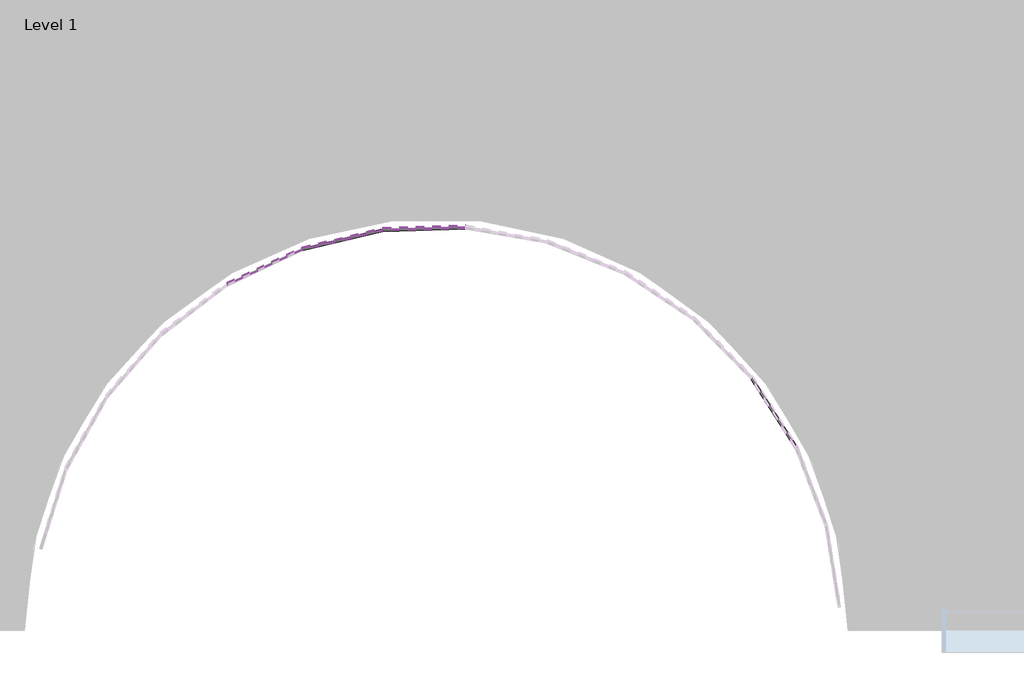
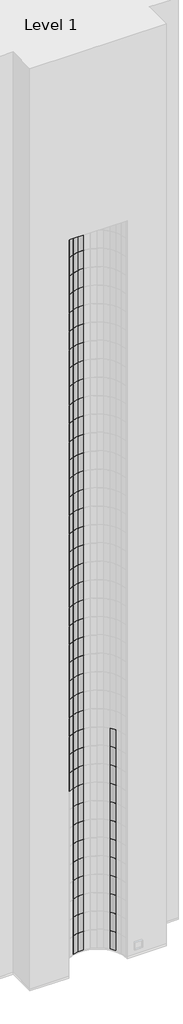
# One storey, part 8 of 20: 123 plates.
"""IFC4 building model written with IfcOpenShell, lengths in millimetres."""

from ifc_helpers import new_model, si_unit, origin, place, context, project, spatial, transform, mapped, element, save
from components import system_panel_glazed_d77d1ebf

model = new_model("IFC4")

# Units and contexts
model_context = context("Model", 3, world=origin())
ifc_project = project(units=[si_unit("LENGTHUNIT", "METRE", prefix="MILLI")], contexts=[model_context])

# Site, building, storey
site = spatial("IfcSite", under=ifc_project)
building = spatial("IfcBuilding", under=site)
storey = spatial("IfcBuildingStorey", under=building, Name="Level 1", Elevation=0.0)

# Plates
placement = place(None, origin())
system_panel_glazed_shape = system_panel_glazed_d77d1ebf(model_context)
element("IfcPlate", 1, ObjectType="System Panel : Glazed", at=placement, inside=storey, context=model_context, shape_type="MappedRepresentation", body=[
    mapped(system_panel_glazed_shape, transform((2482.9364739, -17126.4039912, 0.0), x_axis=(-0.9722724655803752, -0.2338509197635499, 0.0), y_axis=(0.2338509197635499, -0.9722724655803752, 0.0), z_axis=(0.0, 0.0, 1.0))),
])
element("IfcPlate", 2, ObjectType="System Panel : Glazed", at=placement, inside=storey, context=model_context, shape_type="MappedRepresentation", body=[
    mapped(system_panel_glazed_shape, transform((2482.9364739, -17126.4039912, 3048.0), x_axis=(-0.9722724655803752, -0.2338509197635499, 0.0), y_axis=(0.2338509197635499, -0.9722724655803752, 0.0), z_axis=(0.0, 0.0, 1.0))),
])
element("IfcPlate", 3, ObjectType="System Panel : Glazed", at=placement, inside=storey, context=model_context, shape_type="MappedRepresentation", body=[
    mapped(system_panel_glazed_shape, transform((2482.9364739, -17126.4039912, 6096.0), x_axis=(-0.9722724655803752, -0.2338509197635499, 0.0), y_axis=(0.2338509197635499, -0.9722724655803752, 0.0), z_axis=(0.0, 0.0, 1.0))),
])
element("IfcPlate", 4, ObjectType="System Panel : Glazed", at=placement, inside=storey, context=model_context, shape_type="MappedRepresentation", body=[
    mapped(system_panel_glazed_shape, transform((2482.9364739, -17126.4039912, 9144.0), x_axis=(-0.9722724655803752, -0.2338509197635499, 0.0), y_axis=(0.2338509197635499, -0.9722724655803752, 0.0), z_axis=(0.0, 0.0, 1.0))),
])
element("IfcPlate", 5, ObjectType="System Panel : Glazed", at=placement, inside=storey, context=model_context, shape_type="MappedRepresentation", body=[
    mapped(system_panel_glazed_shape, transform((2482.9364739, -17126.4039912, 12192.0), x_axis=(-0.9722724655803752, -0.2338509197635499, 0.0), y_axis=(0.2338509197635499, -0.9722724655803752, 0.0), z_axis=(0.0, 0.0, 1.0))),
])
element("IfcPlate", 6, ObjectType="System Panel : Glazed", at=placement, inside=storey, context=model_context, shape_type="MappedRepresentation", body=[
    mapped(system_panel_glazed_shape, transform((2482.9364739, -17126.4039912, 15240.0), x_axis=(-0.9722724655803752, -0.2338509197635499, 0.0), y_axis=(0.2338509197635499, -0.9722724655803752, 0.0), z_axis=(0.0, 0.0, 1.0))),
])
element("IfcPlate", 7, ObjectType="System Panel : Glazed", at=placement, inside=storey, context=model_context, shape_type="MappedRepresentation", body=[
    mapped(system_panel_glazed_shape, transform((2482.9364739, -17126.4039912, 18288.0), x_axis=(-0.9722724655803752, -0.23385091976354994, 0.0), y_axis=(0.23385091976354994, -0.9722724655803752, 0.0), z_axis=(0.0, 0.0, 1.0))),
])
element("IfcPlate", 8, ObjectType="System Panel : Glazed", at=placement, inside=storey, context=model_context, shape_type="MappedRepresentation", body=[
    mapped(system_panel_glazed_shape, transform((2482.9364739, -17126.4039912, 21336.0), x_axis=(-0.9722724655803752, -0.2338509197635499, 0.0), y_axis=(0.2338509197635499, -0.9722724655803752, 0.0), z_axis=(0.0, 0.0, 1.0))),
])
element("IfcPlate", 9, ObjectType="System Panel : Glazed", at=placement, inside=storey, context=model_context, shape_type="MappedRepresentation", body=[
    mapped(system_panel_glazed_shape, transform((2482.9364739, -17126.4039912, 24384.0), x_axis=(-0.9722724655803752, -0.2338509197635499, 0.0), y_axis=(0.2338509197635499, -0.9722724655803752, 0.0), z_axis=(0.0, 0.0, 1.0))),
])
element("IfcPlate", 10, ObjectType="System Panel : Glazed", at=placement, inside=storey, context=model_context, shape_type="MappedRepresentation", body=[
    mapped(system_panel_glazed_shape, transform((2482.9364739, -17126.4039912, 27432.0), x_axis=(-0.9722724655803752, -0.2338509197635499, 0.0), y_axis=(0.2338509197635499, -0.9722724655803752, 0.0), z_axis=(0.0, 0.0, 1.0))),
])
element("IfcPlate", 11, ObjectType="System Panel : Glazed", at=placement, inside=storey, context=model_context, shape_type="MappedRepresentation", body=[
    mapped(system_panel_glazed_shape, transform((1625.145029, -17428.8737158, 27432.0), x_axis=(-0.9039117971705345, -0.4277189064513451, 0.0), y_axis=(0.4277189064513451, -0.9039117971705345, 0.0), z_axis=(0.0, 0.0, 1.0))),
])
element("IfcPlate", 12, ObjectType="System Panel : Glazed", at=placement, inside=storey, context=model_context, shape_type="MappedRepresentation", body=[
    mapped(system_panel_glazed_shape, transform((2482.9364739, -17126.4039912, 30480.0), x_axis=(-0.9722724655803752, -0.2338509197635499, 0.0), y_axis=(0.2338509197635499, -0.9722724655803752, 0.0), z_axis=(0.0, 0.0, 1.0))),
])
element("IfcPlate", 13, ObjectType="System Panel : Glazed", at=placement, inside=storey, context=model_context, shape_type="MappedRepresentation", body=[
    mapped(system_panel_glazed_shape, transform((1625.145029, -17428.8737158, 30480.0), x_axis=(-0.9039117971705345, -0.4277189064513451, 0.0), y_axis=(0.4277189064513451, -0.9039117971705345, 0.0), z_axis=(0.0, 0.0, 1.0))),
])
element("IfcPlate", 14, ObjectType="System Panel : Glazed", at=placement, inside=storey, context=model_context, shape_type="MappedRepresentation", body=[
    mapped(system_panel_glazed_shape, transform((2482.9364739, -17126.4039912, 33528.0), x_axis=(-0.9722724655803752, -0.2338509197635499, 0.0), y_axis=(0.2338509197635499, -0.9722724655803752, 0.0), z_axis=(0.0, 0.0, 1.0))),
])
element("IfcPlate", 15, ObjectType="System Panel : Glazed", at=placement, inside=storey, context=model_context, shape_type="MappedRepresentation", body=[
    mapped(system_panel_glazed_shape, transform((1625.145029, -17428.8737158, 33528.0), x_axis=(-0.9039117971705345, -0.4277189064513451, 0.0), y_axis=(0.4277189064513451, -0.9039117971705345, 0.0), z_axis=(0.0, 0.0, 1.0))),
])
element("IfcPlate", 16, ObjectType="System Panel : Glazed", at=placement, inside=storey, context=model_context, shape_type="MappedRepresentation", body=[
    mapped(system_panel_glazed_shape, transform((2482.9364739, -17126.4039912, 36576.0), x_axis=(-0.9722724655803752, -0.2338509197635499, 0.0), y_axis=(0.2338509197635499, -0.9722724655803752, 0.0), z_axis=(0.0, 0.0, 1.0))),
])
element("IfcPlate", 17, ObjectType="System Panel : Glazed", at=placement, inside=storey, context=model_context, shape_type="MappedRepresentation", body=[
    mapped(system_panel_glazed_shape, transform((1625.145029, -17428.8737158, 36576.0), x_axis=(-0.9039117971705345, -0.4277189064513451, 0.0), y_axis=(0.4277189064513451, -0.9039117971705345, 0.0), z_axis=(0.0, 0.0, 1.0))),
])
element("IfcPlate", 18, ObjectType="System Panel : Glazed", at=placement, inside=storey, context=model_context, shape_type="MappedRepresentation", body=[
    mapped(system_panel_glazed_shape, transform((2482.9364739, -17126.4039912, 39624.0), x_axis=(-0.9722724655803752, -0.2338509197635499, 0.0), y_axis=(0.2338509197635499, -0.9722724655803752, 0.0), z_axis=(0.0, 0.0, 1.0))),
])
element("IfcPlate", 19, ObjectType="System Panel : Glazed", at=placement, inside=storey, context=model_context, shape_type="MappedRepresentation", body=[
    mapped(system_panel_glazed_shape, transform((1625.145029, -17428.8737158, 39624.0), x_axis=(-0.9039117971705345, -0.4277189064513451, 0.0), y_axis=(0.4277189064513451, -0.9039117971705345, 0.0), z_axis=(0.0, 0.0, 1.0))),
])
element("IfcPlate", 20, ObjectType="System Panel : Glazed", at=placement, inside=storey, context=model_context, shape_type="MappedRepresentation", body=[
    mapped(system_panel_glazed_shape, transform((2482.9364739, -17126.4039912, 42672.0), x_axis=(-0.9722724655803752, -0.2338509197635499, 0.0), y_axis=(0.2338509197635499, -0.9722724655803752, 0.0), z_axis=(0.0, 0.0, 1.0))),
])
element("IfcPlate", 21, ObjectType="System Panel : Glazed", at=placement, inside=storey, context=model_context, shape_type="MappedRepresentation", body=[
    mapped(system_panel_glazed_shape, transform((1625.145029, -17428.8737158, 42672.0), x_axis=(-0.9039117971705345, -0.4277189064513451, 0.0), y_axis=(0.4277189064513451, -0.9039117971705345, 0.0), z_axis=(0.0, 0.0, 1.0))),
])
element("IfcPlate", 22, ObjectType="System Panel : Glazed", at=placement, inside=storey, context=model_context, shape_type="MappedRepresentation", body=[
    mapped(system_panel_glazed_shape, transform((2482.9364739, -17126.4039912, 45720.0), x_axis=(-0.9722724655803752, -0.2338509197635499, 0.0), y_axis=(0.2338509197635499, -0.9722724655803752, 0.0), z_axis=(0.0, 0.0, 1.0))),
])
element("IfcPlate", 23, ObjectType="System Panel : Glazed", at=placement, inside=storey, context=model_context, shape_type="MappedRepresentation", body=[
    mapped(system_panel_glazed_shape, transform((1625.145029, -17428.8737158, 45720.0), x_axis=(-0.9039117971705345, -0.4277189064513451, 0.0), y_axis=(0.4277189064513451, -0.9039117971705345, 0.0), z_axis=(0.0, 0.0, 1.0))),
])
element("IfcPlate", 24, ObjectType="System Panel : Glazed", at=placement, inside=storey, context=model_context, shape_type="MappedRepresentation", body=[
    mapped(system_panel_glazed_shape, transform((2482.9364739, -17126.4039912, 48768.0), x_axis=(-0.9722724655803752, -0.2338509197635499, 0.0), y_axis=(0.2338509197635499, -0.9722724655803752, 0.0), z_axis=(0.0, 0.0, 1.0))),
])
element("IfcPlate", 25, ObjectType="System Panel : Glazed", at=placement, inside=storey, context=model_context, shape_type="MappedRepresentation", body=[
    mapped(system_panel_glazed_shape, transform((1625.145029, -17428.8737158, 48768.0), x_axis=(-0.9039117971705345, -0.4277189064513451, 0.0), y_axis=(0.4277189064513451, -0.9039117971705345, 0.0), z_axis=(0.0, 0.0, 1.0))),
])
element("IfcPlate", 26, ObjectType="System Panel : Glazed", at=placement, inside=storey, context=model_context, shape_type="MappedRepresentation", body=[
    mapped(system_panel_glazed_shape, transform((2482.9364739, -17126.4039912, 51816.0), x_axis=(-0.9722724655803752, -0.2338509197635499, 0.0), y_axis=(0.2338509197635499, -0.9722724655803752, 0.0), z_axis=(0.0, 0.0, 1.0))),
])
element("IfcPlate", 27, ObjectType="System Panel : Glazed", at=placement, inside=storey, context=model_context, shape_type="MappedRepresentation", body=[
    mapped(system_panel_glazed_shape, transform((1625.145029, -17428.8737158, 51816.0), x_axis=(-0.9039117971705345, -0.4277189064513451, 0.0), y_axis=(0.4277189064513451, -0.9039117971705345, 0.0), z_axis=(0.0, 0.0, 1.0))),
])
element("IfcPlate", 28, ObjectType="System Panel : Glazed", at=placement, inside=storey, context=model_context, shape_type="MappedRepresentation", body=[
    mapped(system_panel_glazed_shape, transform((2482.9364739, -17126.4039912, 54864.0), x_axis=(-0.9722724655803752, -0.2338509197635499, 0.0), y_axis=(0.2338509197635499, -0.9722724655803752, 0.0), z_axis=(0.0, 0.0, 1.0))),
])
element("IfcPlate", 29, ObjectType="System Panel : Glazed", at=placement, inside=storey, context=model_context, shape_type="MappedRepresentation", body=[
    mapped(system_panel_glazed_shape, transform((1625.145029, -17428.8737158, 54864.0), x_axis=(-0.9039117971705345, -0.4277189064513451, 0.0), y_axis=(0.4277189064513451, -0.9039117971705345, 0.0), z_axis=(0.0, 0.0, 1.0))),
])
element("IfcPlate", 30, ObjectType="System Panel : Glazed", at=placement, inside=storey, context=model_context, shape_type="MappedRepresentation", body=[
    mapped(system_panel_glazed_shape, transform((2482.9364739, -17126.4039912, 57912.0), x_axis=(-0.9722724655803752, -0.2338509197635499, 0.0), y_axis=(0.2338509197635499, -0.9722724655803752, 0.0), z_axis=(0.0, 0.0, 1.0))),
])
element("IfcPlate", 31, ObjectType="System Panel : Glazed", at=placement, inside=storey, context=model_context, shape_type="MappedRepresentation", body=[
    mapped(system_panel_glazed_shape, transform((1625.145029, -17428.8737158, 57912.0), x_axis=(-0.9039117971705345, -0.4277189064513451, 0.0), y_axis=(0.4277189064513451, -0.9039117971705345, 0.0), z_axis=(0.0, 0.0, 1.0))),
])
element("IfcPlate", 32, ObjectType="System Panel : Glazed", at=placement, inside=storey, context=model_context, shape_type="MappedRepresentation", body=[
    mapped(system_panel_glazed_shape, transform((2482.9364739, -17126.4039912, 60960.0), x_axis=(-0.9722724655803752, -0.2338509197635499, 0.0), y_axis=(0.2338509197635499, -0.9722724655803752, 0.0), z_axis=(0.0, 0.0, 1.0))),
])
element("IfcPlate", 33, ObjectType="System Panel : Glazed", at=placement, inside=storey, context=model_context, shape_type="MappedRepresentation", body=[
    mapped(system_panel_glazed_shape, transform((1625.145029, -17428.8737158, 60960.0), x_axis=(-0.9039117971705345, -0.4277189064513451, 0.0), y_axis=(0.4277189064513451, -0.9039117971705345, 0.0), z_axis=(0.0, 0.0, 1.0))),
])
element("IfcPlate", 34, ObjectType="System Panel : Glazed", at=placement, inside=storey, context=model_context, shape_type="MappedRepresentation", body=[
    mapped(system_panel_glazed_shape, transform((2482.9364739, -17126.4039912, 64008.0), x_axis=(-0.9722724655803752, -0.2338509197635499, 0.0), y_axis=(0.2338509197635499, -0.9722724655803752, 0.0), z_axis=(0.0, 0.0, 1.0))),
])
element("IfcPlate", 35, ObjectType="System Panel : Glazed", at=placement, inside=storey, context=model_context, shape_type="MappedRepresentation", body=[
    mapped(system_panel_glazed_shape, transform((1625.145029, -17428.8737158, 64008.0), x_axis=(-0.9039117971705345, -0.4277189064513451, 0.0), y_axis=(0.4277189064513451, -0.9039117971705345, 0.0), z_axis=(0.0, 0.0, 1.0))),
])
element("IfcPlate", 36, ObjectType="System Panel : Glazed", at=placement, inside=storey, context=model_context, shape_type="MappedRepresentation", body=[
    mapped(system_panel_glazed_shape, transform((2482.9364739, -17126.4039912, 67056.0), x_axis=(-0.9722724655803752, -0.2338509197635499, 0.0), y_axis=(0.2338509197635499, -0.9722724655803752, 0.0), z_axis=(0.0, 0.0, 1.0))),
])
element("IfcPlate", 37, ObjectType="System Panel : Glazed", at=placement, inside=storey, context=model_context, shape_type="MappedRepresentation", body=[
    mapped(system_panel_glazed_shape, transform((1625.145029, -17428.8737158, 67056.0), x_axis=(-0.9039117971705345, -0.4277189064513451, 0.0), y_axis=(0.4277189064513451, -0.9039117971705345, 0.0), z_axis=(0.0, 0.0, 1.0))),
])
element("IfcPlate", 38, ObjectType="System Panel : Glazed", at=placement, inside=storey, context=model_context, shape_type="MappedRepresentation", body=[
    mapped(system_panel_glazed_shape, transform((2482.9364739, -17126.4039912, 70104.0), x_axis=(-0.9722724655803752, -0.2338509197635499, 0.0), y_axis=(0.2338509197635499, -0.9722724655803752, 0.0), z_axis=(0.0, 0.0, 1.0))),
])
element("IfcPlate", 39, ObjectType="System Panel : Glazed", at=placement, inside=storey, context=model_context, shape_type="MappedRepresentation", body=[
    mapped(system_panel_glazed_shape, transform((1625.145029, -17428.8737158, 70104.0), x_axis=(-0.9039117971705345, -0.4277189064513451, 0.0), y_axis=(0.4277189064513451, -0.9039117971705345, 0.0), z_axis=(0.0, 0.0, 1.0))),
])
element("IfcPlate", 40, ObjectType="System Panel : Glazed", at=placement, inside=storey, context=model_context, shape_type="MappedRepresentation", body=[
    mapped(system_panel_glazed_shape, transform((2482.9364739, -17126.4039912, 73152.0), x_axis=(-0.9722724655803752, -0.2338509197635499, 0.0), y_axis=(0.2338509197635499, -0.9722724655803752, 0.0), z_axis=(0.0, 0.0, 1.0))),
])
element("IfcPlate", 41, ObjectType="System Panel : Glazed", at=placement, inside=storey, context=model_context, shape_type="MappedRepresentation", body=[
    mapped(system_panel_glazed_shape, transform((1625.145029, -17428.8737158, 73152.0), x_axis=(-0.9039117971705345, -0.4277189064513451, 0.0), y_axis=(0.4277189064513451, -0.9039117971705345, 0.0), z_axis=(0.0, 0.0, 1.0))),
])
element("IfcPlate", 42, ObjectType="System Panel : Glazed", at=placement, inside=storey, context=model_context, shape_type="MappedRepresentation", body=[
    mapped(system_panel_glazed_shape, transform((2482.9364739, -17126.4039912, 76200.0), x_axis=(-0.9722724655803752, -0.2338509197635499, 0.0), y_axis=(0.2338509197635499, -0.9722724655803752, 0.0), z_axis=(0.0, 0.0, 1.0))),
])
element("IfcPlate", 43, ObjectType="System Panel : Glazed", at=placement, inside=storey, context=model_context, shape_type="MappedRepresentation", body=[
    mapped(system_panel_glazed_shape, transform((1625.145029, -17428.8737158, 76200.0), x_axis=(-0.9039117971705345, -0.4277189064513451, 0.0), y_axis=(0.4277189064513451, -0.9039117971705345, 0.0), z_axis=(0.0, 0.0, 1.0))),
])
element("IfcPlate", 44, ObjectType="System Panel : Glazed", at=placement, inside=storey, context=model_context, shape_type="MappedRepresentation", body=[
    mapped(system_panel_glazed_shape, transform((2482.9364739, -17126.4039912, 79248.0), x_axis=(-0.9722724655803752, -0.2338509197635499, 0.0), y_axis=(0.2338509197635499, -0.9722724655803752, 0.0), z_axis=(0.0, 0.0, 1.0))),
])
element("IfcPlate", 45, ObjectType="System Panel : Glazed", at=placement, inside=storey, context=model_context, shape_type="MappedRepresentation", body=[
    mapped(system_panel_glazed_shape, transform((1625.145029, -17428.8737158, 79248.0), x_axis=(-0.9039117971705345, -0.4277189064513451, 0.0), y_axis=(0.4277189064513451, -0.9039117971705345, 0.0), z_axis=(0.0, 0.0, 1.0))),
])
element("IfcPlate", 46, ObjectType="System Panel : Glazed", at=placement, inside=storey, context=model_context, shape_type="MappedRepresentation", body=[
    mapped(system_panel_glazed_shape, transform((2482.9364739, -17126.4039912, 82296.0), x_axis=(-0.9722724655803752, -0.2338509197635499, 0.0), y_axis=(0.2338509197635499, -0.9722724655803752, 0.0), z_axis=(0.0, 0.0, 1.0))),
])
element("IfcPlate", 47, ObjectType="System Panel : Glazed", at=placement, inside=storey, context=model_context, shape_type="MappedRepresentation", body=[
    mapped(system_panel_glazed_shape, transform((1625.145029, -17428.8737158, 82296.0), x_axis=(-0.9039117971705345, -0.4277189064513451, 0.0), y_axis=(0.4277189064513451, -0.9039117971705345, 0.0), z_axis=(0.0, 0.0, 1.0))),
])
element("IfcPlate", 48, ObjectType="System Panel : Glazed", at=placement, inside=storey, context=model_context, shape_type="MappedRepresentation", body=[
    mapped(system_panel_glazed_shape, transform((2482.9364739, -17126.4039912, 85344.0), x_axis=(-0.9722724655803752, -0.2338509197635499, 0.0), y_axis=(0.2338509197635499, -0.9722724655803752, 0.0), z_axis=(0.0, 0.0, 1.0))),
])
element("IfcPlate", 49, ObjectType="System Panel : Glazed", at=placement, inside=storey, context=model_context, shape_type="MappedRepresentation", body=[
    mapped(system_panel_glazed_shape, transform((1625.145029, -17428.8737158, 85344.0), x_axis=(-0.9039117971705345, -0.4277189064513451, 0.0), y_axis=(0.4277189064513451, -0.9039117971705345, 0.0), z_axis=(0.0, 0.0, 1.0))),
])
element("IfcPlate", 50, ObjectType="System Panel : Glazed", at=placement, inside=storey, context=model_context, shape_type="MappedRepresentation", body=[
    mapped(system_panel_glazed_shape, transform((2482.9364739, -17126.4039912, 88392.0), x_axis=(-0.9722724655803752, -0.2338509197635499, 0.0), y_axis=(0.2338509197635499, -0.9722724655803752, 0.0), z_axis=(0.0, 0.0, 1.0))),
])
element("IfcPlate", 51, ObjectType="System Panel : Glazed", at=placement, inside=storey, context=model_context, shape_type="MappedRepresentation", body=[
    mapped(system_panel_glazed_shape, transform((1625.145029, -17428.8737158, 88392.0), x_axis=(-0.9039117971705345, -0.4277189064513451, 0.0), y_axis=(0.4277189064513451, -0.9039117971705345, 0.0), z_axis=(0.0, 0.0, 1.0))),
])
element("IfcPlate", 52, ObjectType="System Panel : Glazed", at=placement, inside=storey, context=model_context, shape_type="MappedRepresentation", body=[
    mapped(system_panel_glazed_shape, transform((2482.9364739, -17126.4039912, 91440.0), x_axis=(-0.9722724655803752, -0.2338509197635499, 0.0), y_axis=(0.2338509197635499, -0.9722724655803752, 0.0), z_axis=(0.0, 0.0, 1.0))),
])
element("IfcPlate", 53, ObjectType="System Panel : Glazed", at=placement, inside=storey, context=model_context, shape_type="MappedRepresentation", body=[
    mapped(system_panel_glazed_shape, transform((1625.145029, -17428.8737158, 91440.0), x_axis=(-0.9039117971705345, -0.4277189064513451, 0.0), y_axis=(0.4277189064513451, -0.9039117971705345, 0.0), z_axis=(0.0, 0.0, 1.0))),
])
element("IfcPlate", 54, ObjectType="System Panel : Glazed", at=placement, inside=storey, context=model_context, shape_type="MappedRepresentation", body=[
    mapped(system_panel_glazed_shape, transform((2482.9364739, -17126.4039912, 94488.0), x_axis=(-0.9722724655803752, -0.2338509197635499, 0.0), y_axis=(0.2338509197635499, -0.9722724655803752, 0.0), z_axis=(0.0, 0.0, 1.0))),
])
element("IfcPlate", 55, ObjectType="System Panel : Glazed", at=placement, inside=storey, context=model_context, shape_type="MappedRepresentation", body=[
    mapped(system_panel_glazed_shape, transform((1625.145029, -17428.8737158, 94488.0), x_axis=(-0.9039117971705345, -0.4277189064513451, 0.0), y_axis=(0.4277189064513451, -0.9039117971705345, 0.0), z_axis=(0.0, 0.0, 1.0))),
])
element("IfcPlate", 56, ObjectType="System Panel : Glazed", at=placement, inside=storey, context=model_context, shape_type="MappedRepresentation", body=[
    mapped(system_panel_glazed_shape, transform((2482.9364739, -17126.4039912, 97536.0), x_axis=(-0.9722724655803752, -0.2338509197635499, 0.0), y_axis=(0.2338509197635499, -0.9722724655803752, 0.0), z_axis=(0.0, 0.0, 1.0))),
])
element("IfcPlate", 57, ObjectType="System Panel : Glazed", at=placement, inside=storey, context=model_context, shape_type="MappedRepresentation", body=[
    mapped(system_panel_glazed_shape, transform((1625.145029, -17428.8737158, 97536.0), x_axis=(-0.9039117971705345, -0.4277189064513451, 0.0), y_axis=(0.4277189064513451, -0.9039117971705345, 0.0), z_axis=(0.0, 0.0, 1.0))),
])
element("IfcPlate", 58, ObjectType="System Panel : Glazed", at=placement, inside=storey, context=model_context, shape_type="MappedRepresentation", body=[
    mapped(system_panel_glazed_shape, transform((2482.9364739, -17126.4039912, 100584.0), x_axis=(-0.9722724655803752, -0.2338509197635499, 0.0), y_axis=(0.2338509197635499, -0.9722724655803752, 0.0), z_axis=(0.0, 0.0, 1.0))),
])
element("IfcPlate", 59, ObjectType="System Panel : Glazed", at=placement, inside=storey, context=model_context, shape_type="MappedRepresentation", body=[
    mapped(system_panel_glazed_shape, transform((1625.145029, -17428.8737158, 100584.0), x_axis=(-0.9039117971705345, -0.4277189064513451, 0.0), y_axis=(0.4277189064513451, -0.9039117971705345, 0.0), z_axis=(0.0, 0.0, 1.0))),
])
element("IfcPlate", 60, ObjectType="System Panel : Glazed", at=placement, inside=storey, context=model_context, shape_type="MappedRepresentation", body=[
    mapped(system_panel_glazed_shape, transform((3384.4522724, -17005.7252347, 0.0), x_axis=(-0.9995468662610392, -0.030100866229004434, 0.0), y_axis=(0.030100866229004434, -0.9995468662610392, 0.0), z_axis=(0.0, 0.0, 1.0))),
])
element("IfcPlate", 61, ObjectType="System Panel : Glazed", at=placement, inside=storey, context=model_context, shape_type="MappedRepresentation", body=[
    mapped(system_panel_glazed_shape, transform((3384.4522724, -17005.7252347, 3048.0), x_axis=(-0.9995468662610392, -0.030100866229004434, 0.0), y_axis=(0.030100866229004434, -0.9995468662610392, 0.0), z_axis=(0.0, 0.0, 1.0))),
])
element("IfcPlate", 62, ObjectType="System Panel : Glazed", at=placement, inside=storey, context=model_context, shape_type="MappedRepresentation", body=[
    mapped(system_panel_glazed_shape, transform((3384.4522724, -17005.7252347, 6096.0), x_axis=(-0.9995468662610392, -0.030100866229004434, 0.0), y_axis=(0.030100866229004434, -0.9995468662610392, 0.0), z_axis=(0.0, 0.0, 1.0))),
])
element("IfcPlate", 63, ObjectType="System Panel : Glazed", at=placement, inside=storey, context=model_context, shape_type="MappedRepresentation", body=[
    mapped(system_panel_glazed_shape, transform((3384.4522724, -17005.7252347, 9144.0), x_axis=(-0.9995468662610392, -0.030100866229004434, 0.0), y_axis=(0.030100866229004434, -0.9995468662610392, 0.0), z_axis=(0.0, 0.0, 1.0))),
])
element("IfcPlate", 64, ObjectType="System Panel : Glazed", at=placement, inside=storey, context=model_context, shape_type="MappedRepresentation", body=[
    mapped(system_panel_glazed_shape, transform((3384.4522724, -17005.7252347, 12192.0), x_axis=(-0.9995468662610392, -0.030100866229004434, 0.0), y_axis=(0.030100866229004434, -0.9995468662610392, 0.0), z_axis=(0.0, 0.0, 1.0))),
])
element("IfcPlate", 65, ObjectType="System Panel : Glazed", at=placement, inside=storey, context=model_context, shape_type="MappedRepresentation", body=[
    mapped(system_panel_glazed_shape, transform((3384.4522724, -17005.7252347, 15240.0), x_axis=(-0.9995468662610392, -0.030100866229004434, 0.0), y_axis=(0.030100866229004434, -0.9995468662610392, 0.0), z_axis=(0.0, 0.0, 1.0))),
])
element("IfcPlate", 66, ObjectType="System Panel : Glazed", at=placement, inside=storey, context=model_context, shape_type="MappedRepresentation", body=[
    mapped(system_panel_glazed_shape, transform((3384.4522724, -17005.7252347, 18288.0), x_axis=(-0.9995468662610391, -0.030100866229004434, 0.0), y_axis=(0.030100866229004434, -0.9995468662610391, 0.0), z_axis=(0.0, 0.0, 1.0))),
])
element("IfcPlate", 67, ObjectType="System Panel : Glazed", at=placement, inside=storey, context=model_context, shape_type="MappedRepresentation", body=[
    mapped(system_panel_glazed_shape, transform((3384.4522724, -17005.7252347, 21336.0), x_axis=(-0.9995468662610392, -0.030100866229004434, 0.0), y_axis=(0.030100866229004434, -0.9995468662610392, 0.0), z_axis=(0.0, 0.0, 1.0))),
])
element("IfcPlate", 68, ObjectType="System Panel : Glazed", at=placement, inside=storey, context=model_context, shape_type="MappedRepresentation", body=[
    mapped(system_panel_glazed_shape, transform((3384.4522724, -17005.7252347, 24384.0), x_axis=(-0.9995468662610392, -0.030100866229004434, 0.0), y_axis=(0.030100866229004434, -0.9995468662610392, 0.0), z_axis=(0.0, 0.0, 1.0))),
])
element("IfcPlate", 69, ObjectType="System Panel : Glazed", at=placement, inside=storey, context=model_context, shape_type="MappedRepresentation", body=[
    mapped(system_panel_glazed_shape, transform((3384.4522724, -17005.7252347, 27432.0), x_axis=(-0.9995468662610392, -0.030100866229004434, 0.0), y_axis=(0.030100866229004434, -0.9995468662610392, 0.0), z_axis=(0.0, 0.0, 1.0))),
])
element("IfcPlate", 70, ObjectType="System Panel : Glazed", at=placement, inside=storey, context=model_context, shape_type="MappedRepresentation", body=[
    mapped(system_panel_glazed_shape, transform((3384.4522724, -17005.7252347, 30480.0), x_axis=(-0.9995468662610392, -0.030100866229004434, 0.0), y_axis=(0.030100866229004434, -0.9995468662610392, 0.0), z_axis=(0.0, 0.0, 1.0))),
])
element("IfcPlate", 71, ObjectType="System Panel : Glazed", at=placement, inside=storey, context=model_context, shape_type="MappedRepresentation", body=[
    mapped(system_panel_glazed_shape, transform((3384.4522724, -17005.7252347, 33528.0), x_axis=(-0.9995468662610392, -0.030100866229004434, 0.0), y_axis=(0.030100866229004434, -0.9995468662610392, 0.0), z_axis=(0.0, 0.0, 1.0))),
])
element("IfcPlate", 72, ObjectType="System Panel : Glazed", at=placement, inside=storey, context=model_context, shape_type="MappedRepresentation", body=[
    mapped(system_panel_glazed_shape, transform((3384.4522724, -17005.7252347, 36576.0), x_axis=(-0.9995468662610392, -0.030100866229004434, 0.0), y_axis=(0.030100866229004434, -0.9995468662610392, 0.0), z_axis=(0.0, 0.0, 1.0))),
])
element("IfcPlate", 73, ObjectType="System Panel : Glazed", at=placement, inside=storey, context=model_context, shape_type="MappedRepresentation", body=[
    mapped(system_panel_glazed_shape, transform((3384.4522724, -17005.7252347, 39624.0), x_axis=(-0.9995468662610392, -0.030100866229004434, 0.0), y_axis=(0.030100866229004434, -0.9995468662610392, 0.0), z_axis=(0.0, 0.0, 1.0))),
])
element("IfcPlate", 74, ObjectType="System Panel : Glazed", at=placement, inside=storey, context=model_context, shape_type="MappedRepresentation", body=[
    mapped(system_panel_glazed_shape, transform((3384.4522724, -17005.7252347, 42672.0), x_axis=(-0.9995468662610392, -0.030100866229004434, 0.0), y_axis=(0.030100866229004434, -0.9995468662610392, 0.0), z_axis=(0.0, 0.0, 1.0))),
])
element("IfcPlate", 75, ObjectType="System Panel : Glazed", at=placement, inside=storey, context=model_context, shape_type="MappedRepresentation", body=[
    mapped(system_panel_glazed_shape, transform((3384.4522724, -17005.7252347, 45720.0), x_axis=(-0.9995468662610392, -0.030100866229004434, 0.0), y_axis=(0.030100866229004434, -0.9995468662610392, 0.0), z_axis=(0.0, 0.0, 1.0))),
])
element("IfcPlate", 76, ObjectType="System Panel : Glazed", at=placement, inside=storey, context=model_context, shape_type="MappedRepresentation", body=[
    mapped(system_panel_glazed_shape, transform((3384.4522724, -17005.7252347, 48768.0), x_axis=(-0.9995468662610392, -0.030100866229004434, 0.0), y_axis=(0.030100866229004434, -0.9995468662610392, 0.0), z_axis=(0.0, 0.0, 1.0))),
])
element("IfcPlate", 77, ObjectType="System Panel : Glazed", at=placement, inside=storey, context=model_context, shape_type="MappedRepresentation", body=[
    mapped(system_panel_glazed_shape, transform((3384.4522724, -17005.7252347, 51816.0), x_axis=(-0.9995468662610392, -0.030100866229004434, 0.0), y_axis=(0.030100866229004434, -0.9995468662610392, 0.0), z_axis=(0.0, 0.0, 1.0))),
])
element("IfcPlate", 78, ObjectType="System Panel : Glazed", at=placement, inside=storey, context=model_context, shape_type="MappedRepresentation", body=[
    mapped(system_panel_glazed_shape, transform((3384.4522724, -17005.7252347, 54864.0), x_axis=(-0.9995468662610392, -0.030100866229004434, 0.0), y_axis=(0.030100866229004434, -0.9995468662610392, 0.0), z_axis=(0.0, 0.0, 1.0))),
])
element("IfcPlate", 79, ObjectType="System Panel : Glazed", at=placement, inside=storey, context=model_context, shape_type="MappedRepresentation", body=[
    mapped(system_panel_glazed_shape, transform((3384.4522724, -17005.7252347, 57912.0), x_axis=(-0.9995468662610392, -0.030100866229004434, 0.0), y_axis=(0.030100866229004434, -0.9995468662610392, 0.0), z_axis=(0.0, 0.0, 1.0))),
])
element("IfcPlate", 80, ObjectType="System Panel : Glazed", at=placement, inside=storey, context=model_context, shape_type="MappedRepresentation", body=[
    mapped(system_panel_glazed_shape, transform((3384.4522724, -17005.7252347, 60960.0), x_axis=(-0.9995468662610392, -0.030100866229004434, 0.0), y_axis=(0.030100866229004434, -0.9995468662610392, 0.0), z_axis=(0.0, 0.0, 1.0))),
])
element("IfcPlate", 81, ObjectType="System Panel : Glazed", at=placement, inside=storey, context=model_context, shape_type="MappedRepresentation", body=[
    mapped(system_panel_glazed_shape, transform((3384.4522724, -17005.7252347, 64008.0), x_axis=(-0.9995468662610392, -0.030100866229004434, 0.0), y_axis=(0.030100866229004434, -0.9995468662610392, 0.0), z_axis=(0.0, 0.0, 1.0))),
])
element("IfcPlate", 82, ObjectType="System Panel : Glazed", at=placement, inside=storey, context=model_context, shape_type="MappedRepresentation", body=[
    mapped(system_panel_glazed_shape, transform((3384.4522724, -17005.7252347, 67056.0), x_axis=(-0.9995468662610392, -0.030100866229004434, 0.0), y_axis=(0.030100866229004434, -0.9995468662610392, 0.0), z_axis=(0.0, 0.0, 1.0))),
])
element("IfcPlate", 83, ObjectType="System Panel : Glazed", at=placement, inside=storey, context=model_context, shape_type="MappedRepresentation", body=[
    mapped(system_panel_glazed_shape, transform((3384.4522724, -17005.7252347, 70104.0), x_axis=(-0.9995468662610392, -0.030100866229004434, 0.0), y_axis=(0.030100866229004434, -0.9995468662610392, 0.0), z_axis=(0.0, 0.0, 1.0))),
])
element("IfcPlate", 84, ObjectType="System Panel : Glazed", at=placement, inside=storey, context=model_context, shape_type="MappedRepresentation", body=[
    mapped(system_panel_glazed_shape, transform((3384.4522724, -17005.7252347, 73152.0), x_axis=(-0.9995468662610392, -0.030100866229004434, 0.0), y_axis=(0.030100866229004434, -0.9995468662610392, 0.0), z_axis=(0.0, 0.0, 1.0))),
])
element("IfcPlate", 85, ObjectType="System Panel : Glazed", at=placement, inside=storey, context=model_context, shape_type="MappedRepresentation", body=[
    mapped(system_panel_glazed_shape, transform((3384.4522724, -17005.7252347, 76200.0), x_axis=(-0.9995468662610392, -0.030100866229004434, 0.0), y_axis=(0.030100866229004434, -0.9995468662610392, 0.0), z_axis=(0.0, 0.0, 1.0))),
])
element("IfcPlate", 86, ObjectType="System Panel : Glazed", at=placement, inside=storey, context=model_context, shape_type="MappedRepresentation", body=[
    mapped(system_panel_glazed_shape, transform((3384.4522724, -17005.7252347, 79248.0), x_axis=(-0.9995468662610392, -0.030100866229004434, 0.0), y_axis=(0.030100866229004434, -0.9995468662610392, 0.0), z_axis=(0.0, 0.0, 1.0))),
])
element("IfcPlate", 87, ObjectType="System Panel : Glazed", at=placement, inside=storey, context=model_context, shape_type="MappedRepresentation", body=[
    mapped(system_panel_glazed_shape, transform((3384.4522724, -17005.7252347, 82296.0), x_axis=(-0.9995468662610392, -0.030100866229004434, 0.0), y_axis=(0.030100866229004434, -0.9995468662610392, 0.0), z_axis=(0.0, 0.0, 1.0))),
])
element("IfcPlate", 88, ObjectType="System Panel : Glazed", at=placement, inside=storey, context=model_context, shape_type="MappedRepresentation", body=[
    mapped(system_panel_glazed_shape, transform((3384.4522724, -17005.7252347, 85344.0), x_axis=(-0.9995468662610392, -0.030100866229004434, 0.0), y_axis=(0.030100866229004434, -0.9995468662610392, 0.0), z_axis=(0.0, 0.0, 1.0))),
])
element("IfcPlate", 89, ObjectType="System Panel : Glazed", at=placement, inside=storey, context=model_context, shape_type="MappedRepresentation", body=[
    mapped(system_panel_glazed_shape, transform((3384.4522724, -17005.7252347, 88392.0), x_axis=(-0.9995468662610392, -0.030100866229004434, 0.0), y_axis=(0.030100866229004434, -0.9995468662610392, 0.0), z_axis=(0.0, 0.0, 1.0))),
])
element("IfcPlate", 90, ObjectType="System Panel : Glazed", at=placement, inside=storey, context=model_context, shape_type="MappedRepresentation", body=[
    mapped(system_panel_glazed_shape, transform((3384.4522724, -17005.7252347, 91440.0), x_axis=(-0.9995468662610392, -0.030100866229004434, 0.0), y_axis=(0.030100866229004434, -0.9995468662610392, 0.0), z_axis=(0.0, 0.0, 1.0))),
])
element("IfcPlate", 91, ObjectType="System Panel : Glazed", at=placement, inside=storey, context=model_context, shape_type="MappedRepresentation", body=[
    mapped(system_panel_glazed_shape, transform((3384.4522724, -17005.7252347, 94488.0), x_axis=(-0.9995468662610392, -0.030100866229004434, 0.0), y_axis=(0.030100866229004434, -0.9995468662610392, 0.0), z_axis=(0.0, 0.0, 1.0))),
])
element("IfcPlate", 92, ObjectType="System Panel : Glazed", at=placement, inside=storey, context=model_context, shape_type="MappedRepresentation", body=[
    mapped(system_panel_glazed_shape, transform((3384.4522724, -17005.7252347, 97536.0), x_axis=(-0.9995468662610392, -0.030100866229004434, 0.0), y_axis=(0.030100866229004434, -0.9995468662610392, 0.0), z_axis=(0.0, 0.0, 1.0))),
])
element("IfcPlate", 93, ObjectType="System Panel : Glazed", at=placement, inside=storey, context=model_context, shape_type="MappedRepresentation", body=[
    mapped(system_panel_glazed_shape, transform((3384.4522724, -17005.7252347, 100584.0), x_axis=(-0.9995468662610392, -0.030100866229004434, 0.0), y_axis=(0.030100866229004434, -0.9995468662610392, 0.0), z_axis=(0.0, 0.0, 1.0))),
])
element("IfcPlate", 94, ObjectType="System Panel : Glazed", at=placement, inside=storey, context=model_context, shape_type="MappedRepresentation", body=[
    mapped(system_panel_glazed_shape, transform((7239.747729, -19036.0319834, 0.0), x_axis=(-0.5406806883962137, 0.8412279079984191, 0.0), y_axis=(-0.8412279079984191, -0.5406806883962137, 0.0), z_axis=(0.0, 0.0, 1.0))),
])
element("IfcPlate", 95, ObjectType="System Panel : Glazed", at=placement, inside=storey, context=model_context, shape_type="MappedRepresentation", body=[
    mapped(system_panel_glazed_shape, transform((7239.747729, -19036.0319834, 3048.0), x_axis=(-0.5406806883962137, 0.8412279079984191, 0.0), y_axis=(-0.8412279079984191, -0.5406806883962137, 0.0), z_axis=(0.0, 0.0, 1.0))),
])
element("IfcPlate", 96, ObjectType="System Panel : Glazed", at=placement, inside=storey, context=model_context, shape_type="MappedRepresentation", body=[
    mapped(system_panel_glazed_shape, transform((7239.747729, -19036.0319834, 6096.0), x_axis=(-0.5406806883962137, 0.8412279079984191, 0.0), y_axis=(-0.8412279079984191, -0.5406806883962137, 0.0), z_axis=(0.0, 0.0, 1.0))),
])
element("IfcPlate", 97, ObjectType="System Panel : Glazed", at=placement, inside=storey, context=model_context, shape_type="MappedRepresentation", body=[
    mapped(system_panel_glazed_shape, transform((7239.747729, -19036.0319834, 9144.0), x_axis=(-0.5406806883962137, 0.8412279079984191, 0.0), y_axis=(-0.8412279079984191, -0.5406806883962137, 0.0), z_axis=(0.0, 0.0, 1.0))),
])
element("IfcPlate", 98, ObjectType="System Panel : Glazed", at=placement, inside=storey, context=model_context, shape_type="MappedRepresentation", body=[
    mapped(system_panel_glazed_shape, transform((7239.747729, -19036.0319834, 12192.0), x_axis=(-0.5406806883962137, 0.8412279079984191, 0.0), y_axis=(-0.8412279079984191, -0.5406806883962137, 0.0), z_axis=(0.0, 0.0, 1.0))),
])
element("IfcPlate", 99, ObjectType="System Panel : Glazed", at=placement, inside=storey, context=model_context, shape_type="MappedRepresentation", body=[
    mapped(system_panel_glazed_shape, transform((7239.747729, -19036.0319834, 15240.0), x_axis=(-0.5406806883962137, 0.8412279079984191, 0.0), y_axis=(-0.8412279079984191, -0.5406806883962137, 0.0), z_axis=(0.0, 0.0, 1.0))),
])
element("IfcPlate", 100, ObjectType="System Panel : Glazed", at=placement, inside=storey, context=model_context, shape_type="MappedRepresentation", body=[
    mapped(system_panel_glazed_shape, transform((7239.747729, -19036.0319834, 18288.0), x_axis=(-0.5406806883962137, 0.8412279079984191, 0.0), y_axis=(-0.8412279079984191, -0.5406806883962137, 0.0), z_axis=(0.0, 0.0, 1.0))),
])
element("IfcPlate", 101, ObjectType="System Panel : Glazed", at=placement, inside=storey, context=model_context, shape_type="MappedRepresentation", body=[
    mapped(system_panel_glazed_shape, transform((7239.747729, -19036.0319834, 21336.0), x_axis=(-0.5406806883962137, 0.8412279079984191, 0.0), y_axis=(-0.8412279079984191, -0.5406806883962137, 0.0), z_axis=(0.0, 0.0, 1.0))),
])
element("IfcPlate", 102, ObjectType="System Panel : Glazed", at=placement, inside=storey, context=model_context, shape_type="MappedRepresentation", body=[
    mapped(system_panel_glazed_shape, transform((7239.747729, -19036.0319834, 24384.0), x_axis=(-0.5406806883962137, 0.8412279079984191, 0.0), y_axis=(-0.8412279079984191, -0.5406806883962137, 0.0), z_axis=(0.0, 0.0, 1.0))),
])
element("IfcPlate", 103, ObjectType="System Panel : Glazed", at=placement, inside=storey, context=model_context, shape_type="MappedRepresentation", body=[
    mapped(system_panel_glazed_shape, transform((7239.747729, -19036.0319834, 27432.0), x_axis=(-0.5406806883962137, 0.8412279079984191, 0.0), y_axis=(-0.8412279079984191, -0.5406806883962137, 0.0), z_axis=(0.0, 0.0, 1.0))),
])
element("IfcPlate", 104, ObjectType="System Panel : Glazed", at=placement, inside=storey, context=model_context, shape_type="MappedRepresentation", body=[
    mapped(system_panel_glazed_shape, transform((7239.747729, -19036.0319834, 30480.0), x_axis=(-0.5406806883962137, 0.8412279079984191, 0.0), y_axis=(-0.8412279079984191, -0.5406806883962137, 0.0), z_axis=(0.0, 0.0, 1.0))),
])
element("IfcPlate", 105, ObjectType="System Panel : Glazed", at=placement, inside=storey, context=model_context, shape_type="MappedRepresentation", body=[
    mapped(system_panel_glazed_shape, transform((7239.747729, -19036.0319834, 33528.0), x_axis=(-0.5406806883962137, 0.8412279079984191, 0.0), y_axis=(-0.8412279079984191, -0.5406806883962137, 0.0), z_axis=(0.0, 0.0, 1.0))),
])
element("IfcPlate", 106, ObjectType="System Panel : Glazed", at=placement, inside=storey, context=model_context, shape_type="MappedRepresentation", body=[
    mapped(system_panel_glazed_shape, transform((3384.4522724, -17005.7252347, 103632.0), x_axis=(-0.9995468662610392, -0.030100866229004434, 0.0), y_axis=(0.030100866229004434, -0.9995468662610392, 0.0), z_axis=(0.0, 0.0, 1.0))),
])
element("IfcPlate", 107, ObjectType="System Panel : Glazed", at=placement, inside=storey, context=model_context, shape_type="MappedRepresentation", body=[
    mapped(system_panel_glazed_shape, transform((2482.9364739, -17126.4039912, 103632.0), x_axis=(-0.9722724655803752, -0.2338509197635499, 0.0), y_axis=(0.2338509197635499, -0.9722724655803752, 0.0), z_axis=(0.0, 0.0, 1.0))),
])
element("IfcPlate", 108, ObjectType="System Panel : Glazed", at=placement, inside=storey, context=model_context, shape_type="MappedRepresentation", body=[
    mapped(system_panel_glazed_shape, transform((1625.145029, -17428.8737158, 103632.0), x_axis=(-0.9039117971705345, -0.4277189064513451, 0.0), y_axis=(0.4277189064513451, -0.9039117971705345, 0.0), z_axis=(0.0, 0.0, 1.0))),
])
element("IfcPlate", 109, ObjectType="System Panel : Glazed", at=placement, inside=storey, context=model_context, shape_type="MappedRepresentation", body=[
    mapped(system_panel_glazed_shape, transform((3384.4522724, -17005.7252347, 106680.0), x_axis=(-0.9995468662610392, -0.030100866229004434, 0.0), y_axis=(0.030100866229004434, -0.9995468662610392, 0.0), z_axis=(0.0, 0.0, 1.0))),
])
element("IfcPlate", 110, ObjectType="System Panel : Glazed", at=placement, inside=storey, context=model_context, shape_type="MappedRepresentation", body=[
    mapped(system_panel_glazed_shape, transform((2482.9364739, -17126.4039912, 106680.0), x_axis=(-0.9722724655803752, -0.2338509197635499, 0.0), y_axis=(0.2338509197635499, -0.9722724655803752, 0.0), z_axis=(0.0, 0.0, 1.0))),
])
element("IfcPlate", 111, ObjectType="System Panel : Glazed", at=placement, inside=storey, context=model_context, shape_type="MappedRepresentation", body=[
    mapped(system_panel_glazed_shape, transform((1625.145029, -17428.8737158, 106680.0), x_axis=(-0.9039117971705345, -0.4277189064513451, 0.0), y_axis=(0.4277189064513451, -0.9039117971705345, 0.0), z_axis=(0.0, 0.0, 1.0))),
])
element("IfcPlate", 112, ObjectType="System Panel : Glazed", at=placement, inside=storey, context=model_context, shape_type="MappedRepresentation", body=[
    mapped(system_panel_glazed_shape, transform((3384.4522724, -17005.7252347, 109728.0), x_axis=(-0.9995468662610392, -0.030100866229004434, 0.0), y_axis=(0.030100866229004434, -0.9995468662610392, 0.0), z_axis=(0.0, 0.0, 1.0))),
])
element("IfcPlate", 113, ObjectType="System Panel : Glazed", at=placement, inside=storey, context=model_context, shape_type="MappedRepresentation", body=[
    mapped(system_panel_glazed_shape, transform((2482.9364739, -17126.4039912, 109728.0), x_axis=(-0.9722724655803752, -0.2338509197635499, 0.0), y_axis=(0.2338509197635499, -0.9722724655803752, 0.0), z_axis=(0.0, 0.0, 1.0))),
])
element("IfcPlate", 114, ObjectType="System Panel : Glazed", at=placement, inside=storey, context=model_context, shape_type="MappedRepresentation", body=[
    mapped(system_panel_glazed_shape, transform((1625.145029, -17428.8737158, 109728.0), x_axis=(-0.9039117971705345, -0.4277189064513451, 0.0), y_axis=(0.4277189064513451, -0.9039117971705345, 0.0), z_axis=(0.0, 0.0, 1.0))),
])
element("IfcPlate", 115, ObjectType="System Panel : Glazed", at=placement, inside=storey, context=model_context, shape_type="MappedRepresentation", body=[
    mapped(system_panel_glazed_shape, transform((3384.4522724, -17005.7252347, 112776.0), x_axis=(-0.9995468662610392, -0.030100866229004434, 0.0), y_axis=(0.030100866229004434, -0.9995468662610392, 0.0), z_axis=(0.0, 0.0, 1.0))),
])
element("IfcPlate", 116, ObjectType="System Panel : Glazed", at=placement, inside=storey, context=model_context, shape_type="MappedRepresentation", body=[
    mapped(system_panel_glazed_shape, transform((2482.9364739, -17126.4039912, 112776.0), x_axis=(-0.9722724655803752, -0.2338509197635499, 0.0), y_axis=(0.2338509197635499, -0.9722724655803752, 0.0), z_axis=(0.0, 0.0, 1.0))),
])
element("IfcPlate", 117, ObjectType="System Panel : Glazed", at=placement, inside=storey, context=model_context, shape_type="MappedRepresentation", body=[
    mapped(system_panel_glazed_shape, transform((1625.145029, -17428.8737158, 112776.0), x_axis=(-0.9039117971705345, -0.4277189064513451, 0.0), y_axis=(0.4277189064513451, -0.9039117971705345, 0.0), z_axis=(0.0, 0.0, 1.0))),
])
element("IfcPlate", 118, ObjectType="System Panel : Glazed", at=placement, inside=storey, context=model_context, shape_type="MappedRepresentation", body=[
    mapped(system_panel_glazed_shape, transform((3384.4522724, -17005.7252347, 115824.0), x_axis=(-0.9995468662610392, -0.030100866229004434, 0.0), y_axis=(0.030100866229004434, -0.9995468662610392, 0.0), z_axis=(0.0, 0.0, 1.0))),
])
element("IfcPlate", 119, ObjectType="System Panel : Glazed", at=placement, inside=storey, context=model_context, shape_type="MappedRepresentation", body=[
    mapped(system_panel_glazed_shape, transform((2482.9364739, -17126.4039912, 115824.0), x_axis=(-0.9722724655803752, -0.2338509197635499, 0.0), y_axis=(0.2338509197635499, -0.9722724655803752, 0.0), z_axis=(0.0, 0.0, 1.0))),
])
element("IfcPlate", 120, ObjectType="System Panel : Glazed", at=placement, inside=storey, context=model_context, shape_type="MappedRepresentation", body=[
    mapped(system_panel_glazed_shape, transform((1625.145029, -17428.8737158, 115824.0), x_axis=(-0.9039117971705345, -0.4277189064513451, 0.0), y_axis=(0.4277189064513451, -0.9039117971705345, 0.0), z_axis=(0.0, 0.0, 1.0))),
])
element("IfcPlate", 121, ObjectType="System Panel : Glazed", at=placement, inside=storey, context=model_context, shape_type="MappedRepresentation", body=[
    mapped(system_panel_glazed_shape, transform((3384.4522724, -17005.7252347, 118872.0), x_axis=(-0.9995468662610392, -0.030100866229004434, 0.0), y_axis=(0.030100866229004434, -0.9995468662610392, 0.0), z_axis=(0.0, 0.0, 1.0))),
])
element("IfcPlate", 122, ObjectType="System Panel : Glazed", at=placement, inside=storey, context=model_context, shape_type="MappedRepresentation", body=[
    mapped(system_panel_glazed_shape, transform((2482.9364739, -17126.4039912, 118872.0), x_axis=(-0.9722724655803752, -0.2338509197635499, 0.0), y_axis=(0.2338509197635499, -0.9722724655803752, 0.0), z_axis=(0.0, 0.0, 1.0))),
])
element("IfcPlate", 123, ObjectType="System Panel : Glazed", at=placement, inside=storey, context=model_context, shape_type="MappedRepresentation", body=[
    mapped(system_panel_glazed_shape, transform((1625.145029, -17428.8737158, 118872.0), x_axis=(-0.9039117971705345, -0.4277189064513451, 0.0), y_axis=(0.4277189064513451, -0.9039117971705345, 0.0), z_axis=(0.0, 0.0, 1.0))),
])

save(model, "model.ifc")
